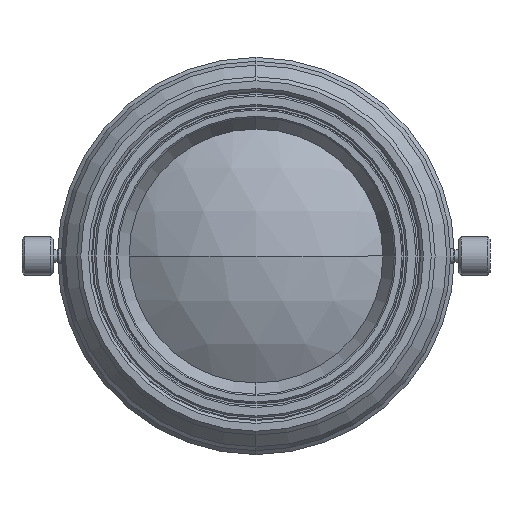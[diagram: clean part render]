
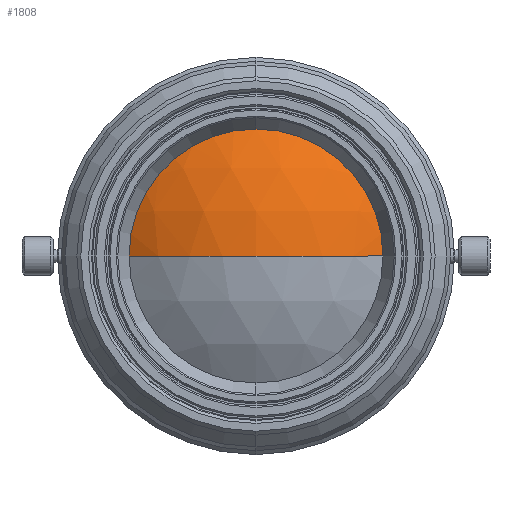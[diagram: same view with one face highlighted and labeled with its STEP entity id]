
A CAD part, left-side view. The second image highlights one B-rep face of the part: STEP entity #1808.
In plain terms, the highlighted spherical face has radius 28.5 mm.
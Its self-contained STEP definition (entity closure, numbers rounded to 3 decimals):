
#225 = VERTEX_POINT ( 'NONE', #1706 ) ;
#682 = AXIS2_PLACEMENT_3D ( 'NONE', #1638, #3043, #911 ) ;
#833 = DIRECTION ( 'NONE',  ( 0., 1., 0. ) ) ;
#863 = DIRECTION ( 'NONE',  ( 0., 0., 1. ) ) ;
#911 = DIRECTION ( 'NONE',  ( 0., 0., -1. ) ) ;
#956 = AXIS2_PLACEMENT_3D ( 'NONE', #1982, #2724, #4143 ) ;
#1003 = FACE_OUTER_BOUND ( 'NONE', #2257, .T. ) ;
#1153 = DIRECTION ( 'NONE',  ( 0., 0., 1. ) ) ;
#1157 = AXIS2_PLACEMENT_3D ( 'NONE', #2585, #1153, #833 ) ;
#1193 = ORIENTED_EDGE ( 'NONE', *, *, #1959, .F. ) ;
#1271 = SPHERICAL_SURFACE ( 'NONE', #1157, 28.5 ) ;
#1440 = CARTESIAN_POINT ( 'NONE',  ( -94.406, 0., 0. ) ) ;
#1489 = CIRCLE ( 'NONE', #956, 16.3 ) ;
#1587 = CARTESIAN_POINT ( 'NONE',  ( -94.406, 0., 0. ) ) ;
#1638 = CARTESIAN_POINT ( 'NONE',  ( -117.785, 0., 0. ) ) ;
#1706 = CARTESIAN_POINT ( 'NONE',  ( -117.785, 0., 16.3 ) ) ;
#1808 = ADVANCED_FACE ( 'NONE', ( #1003 ), #1271, .T. ) ;
#1863 = EDGE_CURVE ( 'NONE', #3071, #2140, #1900, .T. ) ;
#1900 = CIRCLE ( 'NONE', #2355, 28.5 ) ;
#1959 = EDGE_CURVE ( 'NONE', #3071, #4408, #4538, .T. ) ;
#1982 = CARTESIAN_POINT ( 'NONE',  ( -117.785, 0., 0. ) ) ;
#2140 = VERTEX_POINT ( 'NONE', #3231 ) ;
#2240 = EDGE_CURVE ( 'NONE', #225, #2140, #3487, .T. ) ;
#2257 = EDGE_LOOP ( 'NONE', ( #1193, #4184, #3981, #3530 ) ) ;
#2355 = AXIS2_PLACEMENT_3D ( 'NONE', #1587, #863, #4457 ) ;
#2536 = CARTESIAN_POINT ( 'NONE',  ( -117.785, 16.3, 0. ) ) ;
#2585 = CARTESIAN_POINT ( 'NONE',  ( -94.406, 0., 0. ) ) ;
#2674 = EDGE_CURVE ( 'NONE', #4408, #225, #1489, .T. ) ;
#2689 = CARTESIAN_POINT ( 'NONE',  ( -122.906, 0., 0. ) ) ;
#2724 = DIRECTION ( 'NONE',  ( 1., 0., 0. ) ) ;
#3043 = DIRECTION ( 'NONE',  ( 1., 0., 0. ) ) ;
#3071 = VERTEX_POINT ( 'NONE', #2689 ) ;
#3231 = CARTESIAN_POINT ( 'NONE',  ( -117.785, -16.3, 0. ) ) ;
#3270 = DIRECTION ( 'NONE',  ( 0., 0., -1. ) ) ;
#3487 = CIRCLE ( 'NONE', #682, 16.3 ) ;
#3530 = ORIENTED_EDGE ( 'NONE', *, *, #2674, .F. ) ;
#3922 = AXIS2_PLACEMENT_3D ( 'NONE', #1440, #3270, #3983 ) ;
#3981 = ORIENTED_EDGE ( 'NONE', *, *, #2240, .F. ) ;
#3983 = DIRECTION ( 'NONE',  ( -1., 0., 0. ) ) ;
#4143 = DIRECTION ( 'NONE',  ( 0., 0., -1. ) ) ;
#4184 = ORIENTED_EDGE ( 'NONE', *, *, #1863, .T. ) ;
#4408 = VERTEX_POINT ( 'NONE', #2536 ) ;
#4457 = DIRECTION ( 'NONE',  ( 0., -1., 0. ) ) ;
#4538 = CIRCLE ( 'NONE', #3922, 28.5 ) ;
